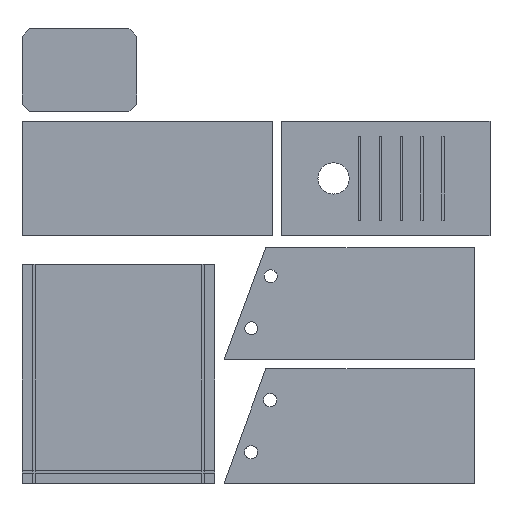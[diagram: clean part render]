
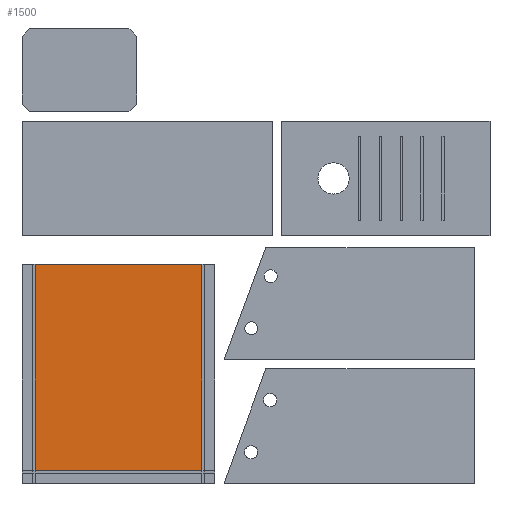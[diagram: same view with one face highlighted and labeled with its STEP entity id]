
A CAD part, top view. The second image highlights one B-rep face of the part: STEP entity #1500.
In plain terms, the highlighted planar face has unit normal (0, 0, 1).
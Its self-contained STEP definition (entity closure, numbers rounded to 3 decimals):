
#166 = PLANE('',#167);
#167 = AXIS2_PLACEMENT_3D('',#168,#169,#170);
#168 = CARTESIAN_POINT('',(0.,96.012,0.));
#169 = DIRECTION('',(0.,1.,0.));
#170 = DIRECTION('',(0.,0.,1.));
#706 = VERTEX_POINT('',#707);
#707 = CARTESIAN_POINT('',(5.715,96.012,6.858));
#721 = PLANE('',#722);
#722 = AXIS2_PLACEMENT_3D('',#723,#724,#725);
#723 = CARTESIAN_POINT('',(5.715,0.,4.572));
#724 = DIRECTION('',(1.,0.,0.));
#725 = DIRECTION('',(0.,0.,1.));
#733 = EDGE_CURVE('',#706,#734,#736,.T.);
#734 = VERTEX_POINT('',#735);
#735 = CARTESIAN_POINT('',(78.867,96.012,6.858));
#736 = SURFACE_CURVE('',#737,(#741,#748),.PCURVE_S1.);
#737 = LINE('',#738,#739);
#738 = CARTESIAN_POINT('',(0.,96.012,6.858));
#739 = VECTOR('',#740,1.);
#740 = DIRECTION('',(1.,0.,0.));
#741 = PCURVE('',#166,#742);
#742 = DEFINITIONAL_REPRESENTATION('',(#743),#747);
#743 = LINE('',#744,#745);
#744 = CARTESIAN_POINT('',(6.858,0.));
#745 = VECTOR('',#746,1.);
#746 = DIRECTION('',(0.,1.));
#747 = ( GEOMETRIC_REPRESENTATION_CONTEXT(2) 
PARAMETRIC_REPRESENTATION_CONTEXT() REPRESENTATION_CONTEXT('2D SPACE',''
  ) );
#748 = PCURVE('',#749,#754);
#749 = PLANE('',#750);
#750 = AXIS2_PLACEMENT_3D('',#751,#752,#753);
#751 = CARTESIAN_POINT('',(0.,0.,6.858));
#752 = DIRECTION('',(0.,0.,1.));
#753 = DIRECTION('',(1.,0.,0.));
#754 = DEFINITIONAL_REPRESENTATION('',(#755),#759);
#755 = LINE('',#756,#757);
#756 = CARTESIAN_POINT('',(0.,96.012));
#757 = VECTOR('',#758,1.);
#758 = DIRECTION('',(1.,0.));
#759 = ( GEOMETRIC_REPRESENTATION_CONTEXT(2) 
PARAMETRIC_REPRESENTATION_CONTEXT() REPRESENTATION_CONTEXT('2D SPACE',''
  ) );
#777 = PLANE('',#778);
#778 = AXIS2_PLACEMENT_3D('',#779,#780,#781);
#779 = CARTESIAN_POINT('',(78.867,0.,4.572));
#780 = DIRECTION('',(1.,0.,0.));
#781 = DIRECTION('',(0.,0.,1.));
#1451 = VERTEX_POINT('',#1452);
#1452 = CARTESIAN_POINT('',(78.867,5.715,6.858));
#1466 = PLANE('',#1467);
#1467 = AXIS2_PLACEMENT_3D('',#1468,#1469,#1470);
#1468 = CARTESIAN_POINT('',(0.,5.715,4.572));
#1469 = DIRECTION('',(0.,1.,0.));
#1470 = DIRECTION('',(0.,0.,1.));
#1480 = EDGE_CURVE('',#1451,#734,#1481,.T.);
#1481 = SURFACE_CURVE('',#1482,(#1486,#1493),.PCURVE_S1.);
#1482 = LINE('',#1483,#1484);
#1483 = CARTESIAN_POINT('',(78.867,0.,6.858));
#1484 = VECTOR('',#1485,1.);
#1485 = DIRECTION('',(0.,1.,0.));
#1486 = PCURVE('',#777,#1487);
#1487 = DEFINITIONAL_REPRESENTATION('',(#1488),#1492);
#1488 = LINE('',#1489,#1490);
#1489 = CARTESIAN_POINT('',(2.286,0.));
#1490 = VECTOR('',#1491,1.);
#1491 = DIRECTION('',(0.,-1.));
#1492 = ( GEOMETRIC_REPRESENTATION_CONTEXT(2) 
PARAMETRIC_REPRESENTATION_CONTEXT() REPRESENTATION_CONTEXT('2D SPACE',''
  ) );
#1493 = PCURVE('',#749,#1494);
#1494 = DEFINITIONAL_REPRESENTATION('',(#1495),#1499);
#1495 = LINE('',#1496,#1497);
#1496 = CARTESIAN_POINT('',(78.867,0.));
#1497 = VECTOR('',#1498,1.);
#1498 = DIRECTION('',(0.,1.));
#1499 = ( GEOMETRIC_REPRESENTATION_CONTEXT(2) 
PARAMETRIC_REPRESENTATION_CONTEXT() REPRESENTATION_CONTEXT('2D SPACE',''
  ) );
#1500 = ADVANCED_FACE('',(#1501),#749,.T.);
#1501 = FACE_BOUND('',#1502,.T.);
#1502 = EDGE_LOOP('',(#1503,#1526,#1547,#1548));
#1503 = ORIENTED_EDGE('',*,*,#1504,.F.);
#1504 = EDGE_CURVE('',#1505,#706,#1507,.T.);
#1505 = VERTEX_POINT('',#1506);
#1506 = CARTESIAN_POINT('',(5.715,5.715,6.858));
#1507 = SURFACE_CURVE('',#1508,(#1512,#1519),.PCURVE_S1.);
#1508 = LINE('',#1509,#1510);
#1509 = CARTESIAN_POINT('',(5.715,0.,6.858));
#1510 = VECTOR('',#1511,1.);
#1511 = DIRECTION('',(0.,1.,0.));
#1512 = PCURVE('',#749,#1513);
#1513 = DEFINITIONAL_REPRESENTATION('',(#1514),#1518);
#1514 = LINE('',#1515,#1516);
#1515 = CARTESIAN_POINT('',(5.715,0.));
#1516 = VECTOR('',#1517,1.);
#1517 = DIRECTION('',(0.,1.));
#1518 = ( GEOMETRIC_REPRESENTATION_CONTEXT(2) 
PARAMETRIC_REPRESENTATION_CONTEXT() REPRESENTATION_CONTEXT('2D SPACE',''
  ) );
#1519 = PCURVE('',#721,#1520);
#1520 = DEFINITIONAL_REPRESENTATION('',(#1521),#1525);
#1521 = LINE('',#1522,#1523);
#1522 = CARTESIAN_POINT('',(2.286,0.));
#1523 = VECTOR('',#1524,1.);
#1524 = DIRECTION('',(0.,-1.));
#1525 = ( GEOMETRIC_REPRESENTATION_CONTEXT(2) 
PARAMETRIC_REPRESENTATION_CONTEXT() REPRESENTATION_CONTEXT('2D SPACE',''
  ) );
#1526 = ORIENTED_EDGE('',*,*,#1527,.F.);
#1527 = EDGE_CURVE('',#1451,#1505,#1528,.T.);
#1528 = SURFACE_CURVE('',#1529,(#1533,#1540),.PCURVE_S1.);
#1529 = LINE('',#1530,#1531);
#1530 = CARTESIAN_POINT('',(0.,5.715,6.858));
#1531 = VECTOR('',#1532,1.);
#1532 = DIRECTION('',(-1.,0.,0.));
#1533 = PCURVE('',#749,#1534);
#1534 = DEFINITIONAL_REPRESENTATION('',(#1535),#1539);
#1535 = LINE('',#1536,#1537);
#1536 = CARTESIAN_POINT('',(0.,5.715));
#1537 = VECTOR('',#1538,1.);
#1538 = DIRECTION('',(-1.,0.));
#1539 = ( GEOMETRIC_REPRESENTATION_CONTEXT(2) 
PARAMETRIC_REPRESENTATION_CONTEXT() REPRESENTATION_CONTEXT('2D SPACE',''
  ) );
#1540 = PCURVE('',#1466,#1541);
#1541 = DEFINITIONAL_REPRESENTATION('',(#1542),#1546);
#1542 = LINE('',#1543,#1544);
#1543 = CARTESIAN_POINT('',(2.286,0.));
#1544 = VECTOR('',#1545,1.);
#1545 = DIRECTION('',(0.,-1.));
#1546 = ( GEOMETRIC_REPRESENTATION_CONTEXT(2) 
PARAMETRIC_REPRESENTATION_CONTEXT() REPRESENTATION_CONTEXT('2D SPACE',''
  ) );
#1547 = ORIENTED_EDGE('',*,*,#1480,.T.);
#1548 = ORIENTED_EDGE('',*,*,#733,.F.);
